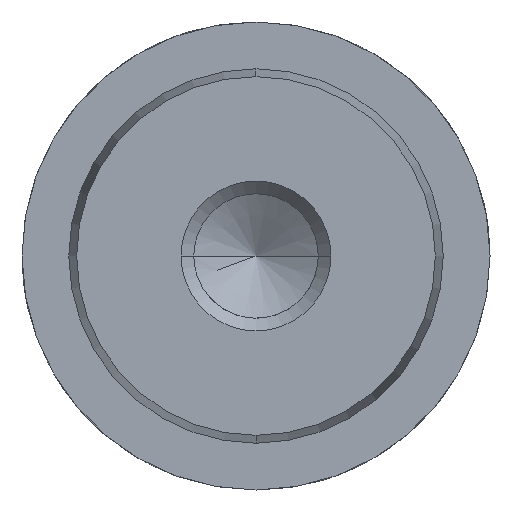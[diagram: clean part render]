
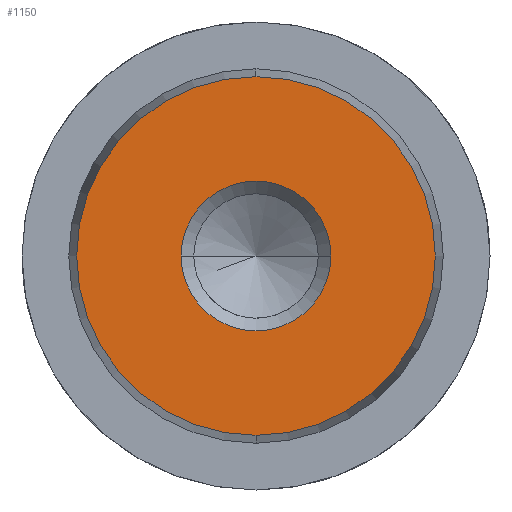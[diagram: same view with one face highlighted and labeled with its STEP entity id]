
A CAD part, left-side view. The second image highlights one B-rep face of the part: STEP entity #1150.
In plain terms, the highlighted planar face has unit normal (-1, 0, 0).
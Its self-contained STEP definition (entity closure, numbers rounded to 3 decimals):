
#1064=CARTESIAN_POINT('Vertex',(0.,0.,-9.578)) ;
#1067=CARTESIAN_POINT('Axis2P3D Location',(0.,0.,0.)) ;
#1071=CARTESIAN_POINT('Vertex',(0.,9.578,0.)) ;
#1074=CARTESIAN_POINT('Axis2P3D Location',(0.,0.,0.)) ;
#1078=CARTESIAN_POINT('Vertex',(0.,0.,9.578)) ;
#1100=CARTESIAN_POINT('Axis2P3D Location',(0.,0.,0.)) ;
#1104=CARTESIAN_POINT('Vertex',(0.,-9.578,0.)) ;
#1107=CARTESIAN_POINT('Axis2P3D Location',(0.,0.,0.)) ;
#1121=CARTESIAN_POINT('Axis2P3D Location',(0.,0.,0.)) ;
#1132=CARTESIAN_POINT('Axis2P3D Location',(0.,0.,0.)) ;
#1136=CARTESIAN_POINT('Vertex',(0.,4.,0.)) ;
#1138=CARTESIAN_POINT('Vertex',(0.,-4.,0.)) ;
#1141=CARTESIAN_POINT('Axis2P3D Location',(0.,0.,0.)) ;
#1068=DIRECTION('Axis2P3D Direction',(1.,0.,-0.)) ;
#1075=DIRECTION('Axis2P3D Direction',(1.,0.,-0.)) ;
#1101=DIRECTION('Axis2P3D Direction',(1.,0.,-0.)) ;
#1108=DIRECTION('Axis2P3D Direction',(1.,0.,-0.)) ;
#1122=DIRECTION('Axis2P3D Direction',(1.,0.,-0.)) ;
#1123=DIRECTION('Axis2P3D XDirection',(-0.,0.,-1.)) ;
#1133=DIRECTION('Axis2P3D Direction',(1.,0.,-0.)) ;
#1142=DIRECTION('Axis2P3D Direction',(1.,0.,-0.)) ;
#1069=AXIS2_PLACEMENT_3D('Circle Axis2P3D',#1067,#1068,$) ;
#1076=AXIS2_PLACEMENT_3D('Circle Axis2P3D',#1074,#1075,$) ;
#1102=AXIS2_PLACEMENT_3D('Circle Axis2P3D',#1100,#1101,$) ;
#1109=AXIS2_PLACEMENT_3D('Circle Axis2P3D',#1107,#1108,$) ;
#1124=AXIS2_PLACEMENT_3D('Plane Axis2P3D',#1121,#1122,#1123) ;
#1134=AXIS2_PLACEMENT_3D('Circle Axis2P3D',#1132,#1133,$) ;
#1143=AXIS2_PLACEMENT_3D('Circle Axis2P3D',#1141,#1142,$) ;
#1127=ORIENTED_EDGE('',*,*,#1073,.F.) ;
#1128=ORIENTED_EDGE('',*,*,#1111,.F.) ;
#1129=ORIENTED_EDGE('',*,*,#1106,.F.) ;
#1130=ORIENTED_EDGE('',*,*,#1080,.F.) ;
#1147=ORIENTED_EDGE('',*,*,#1140,.T.) ;
#1148=ORIENTED_EDGE('',*,*,#1145,.T.) ;
#1149=FACE_BOUND('',#1146,.T.) ;
#1150=ADVANCED_FACE('718-20x180',(#1131,#1149),#1125,.F.) ;
#1070=CIRCLE('generated circle',#1069,9.578) ;
#1077=CIRCLE('generated circle',#1076,9.578) ;
#1103=CIRCLE('generated circle',#1102,9.578) ;
#1110=CIRCLE('generated circle',#1109,9.578) ;
#1135=CIRCLE('generated circle',#1134,4.) ;
#1144=CIRCLE('generated circle',#1143,4.) ;
#1073=EDGE_CURVE('',#1065,#1072,#1070,.T.) ;
#1080=EDGE_CURVE('',#1072,#1079,#1077,.T.) ;
#1106=EDGE_CURVE('',#1079,#1105,#1103,.T.) ;
#1111=EDGE_CURVE('',#1105,#1065,#1110,.T.) ;
#1140=EDGE_CURVE('',#1137,#1139,#1135,.T.) ;
#1145=EDGE_CURVE('',#1139,#1137,#1144,.T.) ;
#1126=EDGE_LOOP('',(#1127,#1128,#1129,#1130)) ;
#1146=EDGE_LOOP('',(#1147,#1148)) ;
#1131=FACE_OUTER_BOUND('',#1126,.T.) ;
#1125=PLANE('Plane',#1124) ;
#1065=VERTEX_POINT('',#1064) ;
#1072=VERTEX_POINT('',#1071) ;
#1079=VERTEX_POINT('',#1078) ;
#1105=VERTEX_POINT('',#1104) ;
#1137=VERTEX_POINT('',#1136) ;
#1139=VERTEX_POINT('',#1138) ;
